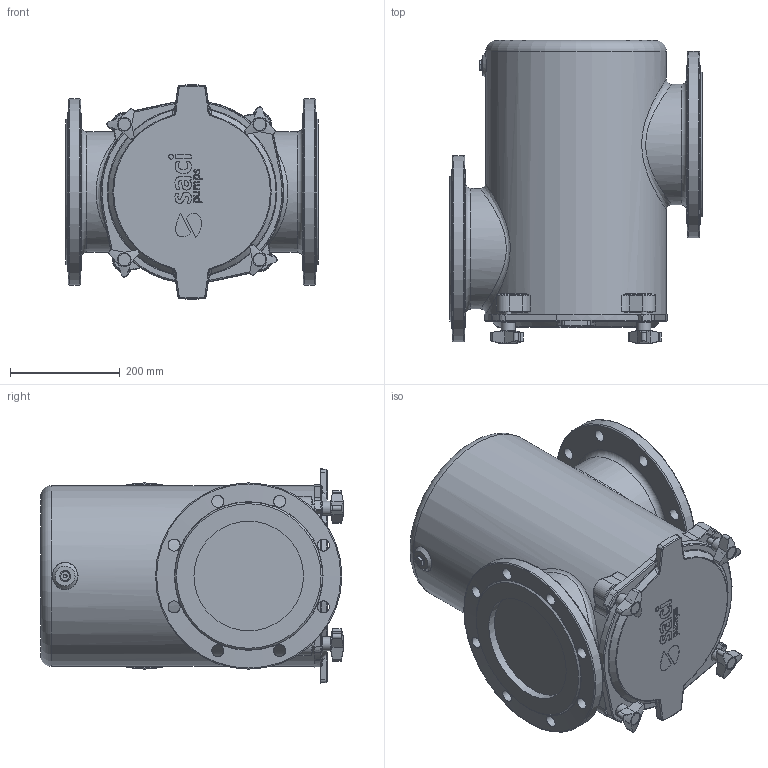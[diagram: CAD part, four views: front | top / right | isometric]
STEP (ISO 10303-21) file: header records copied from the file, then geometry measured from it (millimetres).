
FILE_DESCRIPTION(/* description */ ('Unknown'),/* implementation_level */ '2;1');
FILE_NAME(/* name */ 'PREFILTRO F 200-200 COMPLETO (SACI)',/* time_stamp */ '2020-11-30T11:29:50+01:00',/* author */ ('Unknown'),/* organization */ ('Unknown'),/* preprocessor_version */ 'ST-DEVELOPER v16.7',/* originating_system */ 'Solid Edge',/* authorisation */ 'Unknown');
FILE_SCHEMA (('AUTOMOTIVE_DESIGN {1 0 10303 214 3 1 1}'));
Length unit declared in the file: millimetre
Products named in the file (1): PREFILTRO F 200-200 COMPLETO  (SACI)
Bounding box: 460 x 553 x 391.42 mm (x, y, z)
Volume: 52242193.2 mm3; surface area: 1158030.2 mm2
Topology: 2 solids, 2 shells, 553 faces, 1368 edges, 846 vertices
Faces by surface type: plane 144, cylinder 138, bspline 106, torus 85, cone 80
Full cylindrical faces by diameter (mm): 10.106 x8, 12 x4, 20 x1, 22 x16, 22.5 x4, 25 x4, 200 x2, 220 x2, 330 x1, 340 x2
Entity records: 26782 total; most frequent: CARTESIAN_POINT 11333, ORIENTED_EDGE 2416, DIRECTION 2150, EDGE_CURVE 1208, AXIS2_PLACEMENT_3D 902, VERTEX_POINT 793, FACE_BOUND 727, EDGE_LOOP 725
